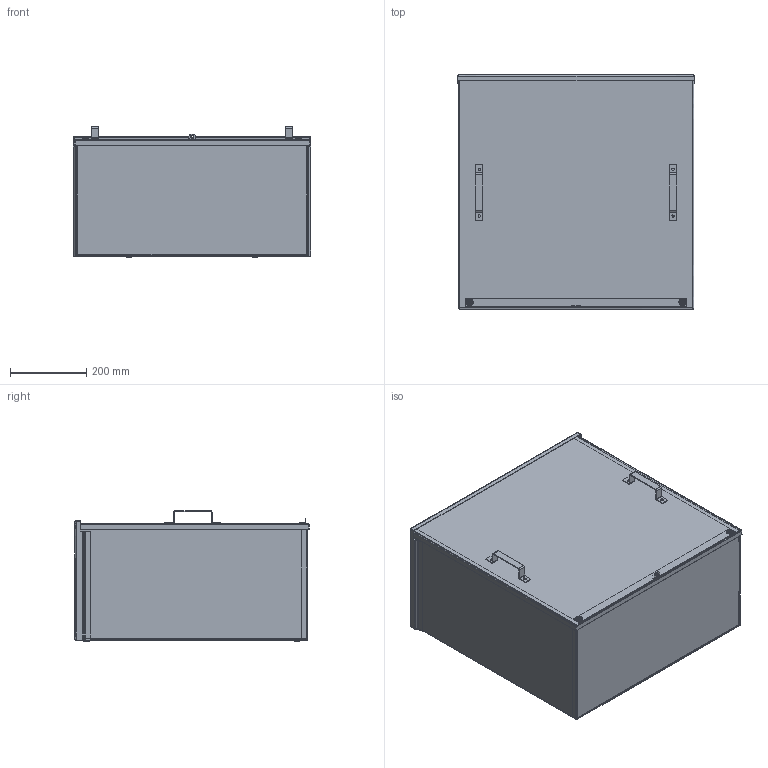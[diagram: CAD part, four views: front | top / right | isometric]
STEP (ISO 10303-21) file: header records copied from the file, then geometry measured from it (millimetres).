
FILE_DESCRIPTION((''),'2;1');
FILE_NAME('D:\scratch\ideas\a24r2412nk.stp','2007-01-26T12:32:13',( 'User'),('SDRC'),'I-DEAS Master Series 9','UNIX','Yes');
FILE_SCHEMA(('AUTOMOTIVE_DESIGN { 1 0 10303 214 0 1 1 1 }'));
Length unit declared in the file: inch
Products named in the file (9): 13525; 3rsc_wmt_body_24x24x12_nk; 3rsc_top_24x12; 3rsc_bottom_24x12_nk; 3rsc_body_24x24x12; assy_cvr_24x24; 79211001; 3rsc_cover_24x24; 78124001
Assembly tree (9 placements, depth 3):
  13525
    3rsc_wmt_body_24x24x12_nk
      3rsc_top_24x12
      3rsc_bottom_24x12_nk
      3rsc_body_24x24x12
    assy_cvr_24x24
      79211001  x2
      3rsc_cover_24x24
    78124001
Bounding box: 622.3 x 614.25 x 342.39 mm (x, y, z)
Volume: 2259474.2 mm3; surface area: 3240494.8 mm2
Topology: 7 solids, 7 shells, 309 faces, 799 edges, 512 vertices
Faces by surface type: bspline 309
Entity records: 9281 total; most frequent: CARTESIAN_POINT 4525, ORIENTED_EDGE 1466, EDGE_CURVE 733, VERTEX_POINT 468, QUASI_UNIFORM_CURVE 374, EDGE_LOOP 333, FACE_OUTER_BOUND 285, ADVANCED_FACE 285
